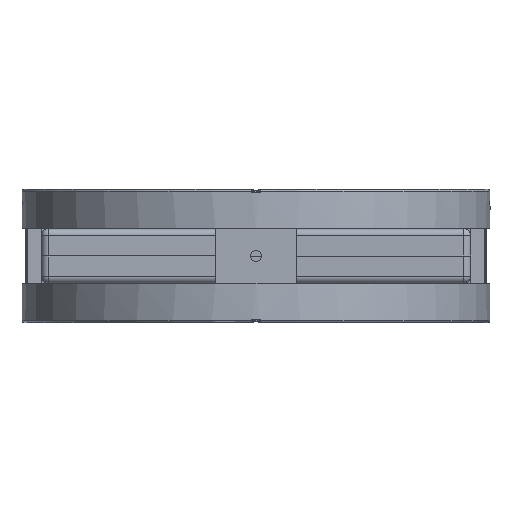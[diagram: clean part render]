
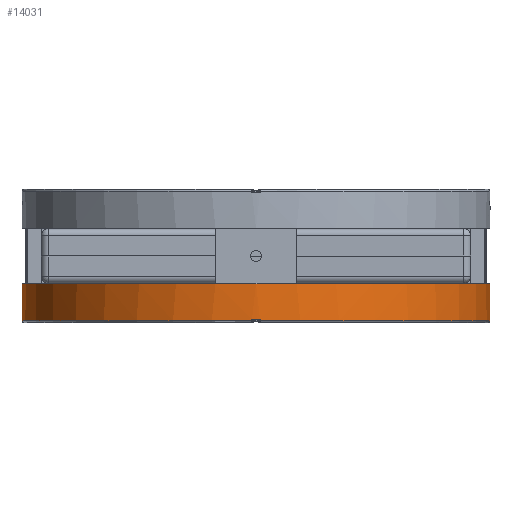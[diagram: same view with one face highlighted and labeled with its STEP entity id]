
A CAD part, front view. The second image highlights one B-rep face of the part: STEP entity #14031.
In plain terms, the highlighted cylindrical face has radius 175 mm (diameter 350 mm), a full revolution.
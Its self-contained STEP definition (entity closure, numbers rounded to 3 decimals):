
#7251=LINE('',#66931,#9468);
#7252=LINE('',#66933,#9469);
#7253=LINE('',#66937,#9470);
#7254=LINE('',#66941,#9471);
#9468=VECTOR('',#46957,1.);
#9469=VECTOR('',#46958,1.);
#9470=VECTOR('',#46961,1.);
#9471=VECTOR('',#46964,1.);
#14031=ADVANCED_FACE('',(#15758,#15759),#14706,.T.);
#14706=CYLINDRICAL_SURFACE('',#38845,175.);
#15758=FACE_BOUND('',#18347,.T.);
#15759=FACE_BOUND('',#18348,.T.);
#18347=EDGE_LOOP('',(#26675));
#18348=EDGE_LOOP('',(#26676,#26677,#26678,#26679,#26680,#26681,#26682,#26683));
#26675=ORIENTED_EDGE('',*,*,#34483,.F.);
#26676=ORIENTED_EDGE('',*,*,#34484,.F.);
#26677=ORIENTED_EDGE('',*,*,#34412,.T.);
#26678=ORIENTED_EDGE('',*,*,#34485,.F.);
#26679=ORIENTED_EDGE('',*,*,#34486,.T.);
#26680=ORIENTED_EDGE('',*,*,#34487,.F.);
#26681=ORIENTED_EDGE('',*,*,#34488,.T.);
#26682=ORIENTED_EDGE('',*,*,#34489,.F.);
#26683=ORIENTED_EDGE('',*,*,#34490,.T.);
#30103=VERTEX_POINT('',#66726);
#30105=VERTEX_POINT('',#66730);
#30176=VERTEX_POINT('',#66930);
#30177=VERTEX_POINT('',#66932);
#30178=VERTEX_POINT('',#66934);
#30179=VERTEX_POINT('',#66936);
#30180=VERTEX_POINT('',#66938);
#30181=VERTEX_POINT('',#66940);
#30182=VERTEX_POINT('',#66942);
#34412=EDGE_CURVE('',#30103,#30105,#35882,.T.);
#34483=EDGE_CURVE('',#30176,#30176,#35930,.T.);
#34484=EDGE_CURVE('',#30103,#30177,#7251,.T.);
#34485=EDGE_CURVE('',#30178,#30105,#7252,.T.);
#34486=EDGE_CURVE('',#30178,#30179,#35931,.T.);
#34487=EDGE_CURVE('',#30180,#30179,#7253,.T.);
#34488=EDGE_CURVE('',#30180,#30181,#35932,.T.);
#34489=EDGE_CURVE('',#30182,#30181,#7254,.T.);
#34490=EDGE_CURVE('',#30182,#30177,#35933,.T.);
#35882=CIRCLE('',#38787,175.);
#35930=CIRCLE('',#38841,175.);
#35931=CIRCLE('',#38842,175.);
#35932=CIRCLE('',#38843,175.);
#35933=CIRCLE('',#38844,175.);
#38787=AXIS2_PLACEMENT_3D('',#66731,#46839,#46840);
#38841=AXIS2_PLACEMENT_3D('',#66929,#46955,#46956);
#38842=AXIS2_PLACEMENT_3D('',#66935,#46959,#46960);
#38843=AXIS2_PLACEMENT_3D('',#66939,#46962,#46963);
#38844=AXIS2_PLACEMENT_3D('',#66943,#46965,#46966);
#38845=AXIS2_PLACEMENT_3D('',#66944,#46967,#46968);
#46839=DIRECTION('',(1.,0.,0.));
#46840=DIRECTION('',(0.,-1.,0.));
#46955=DIRECTION('',(1.,0.,0.));
#46956=DIRECTION('',(0.,-1.,0.));
#46957=DIRECTION('',(-1.,0.,0.));
#46958=DIRECTION('',(1.,0.,0.));
#46959=DIRECTION('',(1.,0.,0.));
#46960=DIRECTION('',(0.,-1.,0.));
#46961=DIRECTION('',(-1.,0.,0.));
#46962=DIRECTION('',(1.,0.,0.));
#46963=DIRECTION('',(0.,-1.,0.));
#46964=DIRECTION('',(1.,0.,0.));
#46965=DIRECTION('',(1.,0.,0.));
#46966=DIRECTION('',(0.,-1.,0.));
#46967=DIRECTION('',(1.,0.,0.));
#46968=DIRECTION('',(0.,-1.,0.));
#66726=CARTESIAN_POINT('',(-47.375,3.,700.974));
#66730=CARTESIAN_POINT('',(-47.375,-3.,700.974));
#66731=CARTESIAN_POINT('',(-47.375,0.,526.));
#66929=CARTESIAN_POINT('',(-20.575,0.,526.));
#66930=CARTESIAN_POINT('',(-20.575,-175.,526.));
#66931=CARTESIAN_POINT('',(-20.575,3.,700.974));
#66932=CARTESIAN_POINT('',(-48.375,3.,700.974));
#66933=CARTESIAN_POINT('',(-20.575,-3.,700.974));
#66934=CARTESIAN_POINT('',(-48.375,-3.,700.974));
#66935=CARTESIAN_POINT('',(-48.375,0.,526.));
#66936=CARTESIAN_POINT('',(-48.375,-3.,351.026));
#66937=CARTESIAN_POINT('',(-20.575,-3.,351.026));
#66938=CARTESIAN_POINT('',(-47.375,-3.,351.026));
#66939=CARTESIAN_POINT('',(-47.375,0.,526.));
#66940=CARTESIAN_POINT('',(-47.375,3.,351.026));
#66941=CARTESIAN_POINT('',(-20.575,3.,351.026));
#66942=CARTESIAN_POINT('',(-48.375,3.,351.026));
#66943=CARTESIAN_POINT('',(-48.375,0.,526.));
#66944=CARTESIAN_POINT('',(-20.575,0.,526.));
